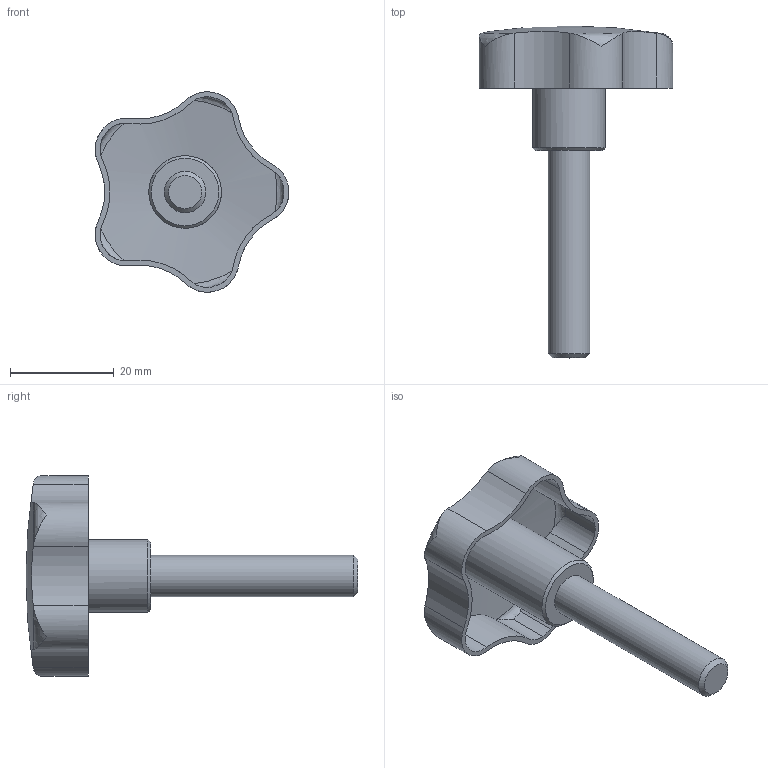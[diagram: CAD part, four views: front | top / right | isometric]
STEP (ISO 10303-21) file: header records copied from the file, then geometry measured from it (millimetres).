
FILE_DESCRIPTION( ( 'STEP AP203' ), '1' );
FILE_NAME( 'C:/Temp/Ganter_Step_05_03_2020/data/2_2/gn_5334_4/gn5334_4_2/Stainless Steel-Star knob with threaded bolt AISI 316L (A4) GN 5334.4-40-M8-40.stp', '2020-03-05T12:08:34', ( 'License CC BY-ND 4.0' ), ( 'CADENAS' ), ' ', 'PARTsolutions', ' ' );
FILE_SCHEMA( ( 'CONFIG_CONTROL_DESIGN' ) );
Length unit declared in the file: millimetre
Products named in the file (1): _Stainless Steel-Star knob with threaded bolt AISI 316L (A4) GN 5334.4-40-M8-40
Bounding box: 37.34 x 64 x 38.63 mm (x, y, z)
Volume: 7629.9 mm3; surface area: 6370.6 mm2
Topology: 1 solids, 1 shells, 49 faces, 140 edges, 94 vertices
Faces by surface type: cylinder 32, torus 10, plane 3, sphere 2, cone 2
Full cylindrical faces by diameter (mm): 8 x1, 14 x1
Entity records: 1978 total; most frequent: CARTESIAN_POINT 739, ORIENTED_EDGE 262, DIRECTION 232, EDGE_CURVE 131, AXIS2_PLACEMENT_3D 101, VERTEX_POINT 92, EDGE_LOOP 56, FACE_OUTER_BOUND 52
